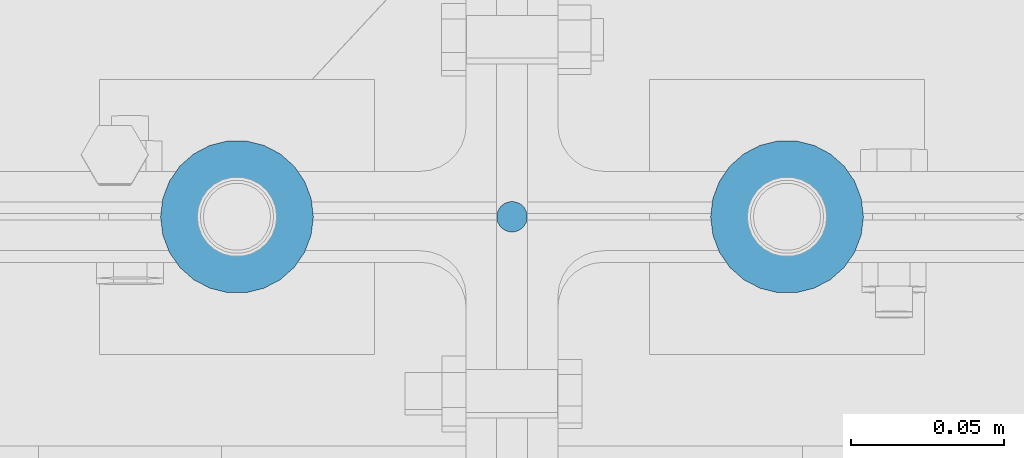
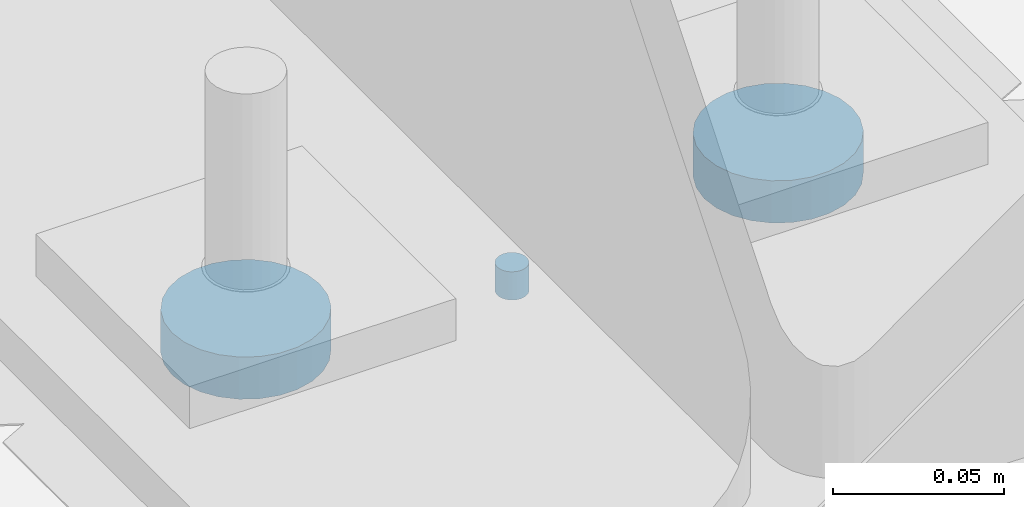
# One storey, part 208 of 362: 3 mechanical fasteners.
"""IFC2X3 building model written with IfcOpenShell, lengths in millimetres."""

from ifc_helpers import new_model, si_unit, frame, origin_with_axes, origin_2d_with_axis, place, context, subcontext, project, spatial, circle, extrude, source, transform, mapped, material, type_object, element, save


model = new_model("IFC2X3")

# Units and contexts
model_context = context("Model", 3, precision=1e-05, world=origin_with_axes())
body_context = subcontext(model_context, "Body", "Model", "MODEL_VIEW")
ifc_project = project(units=[si_unit("LENGTHUNIT", "METRE", prefix="MILLI"), si_unit("AREAUNIT", "SQUARE_METRE"), si_unit("VOLUMEUNIT", "CUBIC_METRE"), si_unit("MASSUNIT", "GRAM", prefix="KILO"), si_unit("TIMEUNIT", "SECOND"), si_unit("PLANEANGLEUNIT", "RADIAN"), si_unit("SOLIDANGLEUNIT", "STERADIAN"), si_unit("THERMODYNAMICTEMPERATUREUNIT", "DEGREE_CELSIUS"), si_unit("LUMINOUSINTENSITYUNIT", "LUMEN")], contexts=[model_context])

# Site, building, storey
site_placement = place(None, origin_with_axes())
site = spatial("IfcSite", under=ifc_project, at=site_placement, Name="Undefined", CompositionType="ELEMENT")
building_placement = place(site_placement, origin_with_axes())
building = spatial("IfcBuilding", under=site, at=building_placement, Name="Undefined", CompositionType="ELEMENT")
storey_placement = place(building_placement, origin_with_axes())
storey = spatial("IfcBuildingStorey", under=building, at=storey_placement, Name="Undefined", CompositionType="ELEMENT", Elevation=0.0)

# Mechanical fasteners
ifc_material = material(Name="6.8")
mechanical_fastener_type = type_object("IfcMechanicalFastenerType", Name="Bolt assembly")
shared_shape_1 = source(origin_with_axes(), body_context, "Body", "SweptSolid", [
    extrude(circle(Radius=25.0, at=origin_2d_with_axis()), frame((0.0, -14.999999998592, 0.0), z_axis=(0.0, 1.0, 0.0), x_axis=(1.0, 0.0, 0.0)), (0.0, 0.0, 1.0), 15.1),
])
for number, where, z_axis, x_axis, name in (
    (1, (4089.99715046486, -9.16043063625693e-09, -200.000000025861), (0.0, 1.0, 0.0), (1.0, 0.0, 0.0), "Bolt assembly"),
    (2, (4269.99715046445, -9.16406861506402e-09, -200.000000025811), (0.0, -1.0, 0.0), (-1.0, 0.0, 0.0), "Bolt assembly"),
):
    element("IfcMechanicalFastener", number, at=place(storey_placement, frame(where, z_axis=z_axis, x_axis=x_axis)), inside=storey, type_object=mechanical_fastener_type, material=ifc_material, Name=name, NominalDiameter=30.0, NominalLength=15.0, context=body_context, shape_type="MappedRepresentation", body=[
        mapped(shared_shape_1, transform((0.0, 0.0, 0.0))),
    ])
shared_shape_2 = source(origin_with_axes(), body_context, "Body", "SweptSolid", [
    extrude(circle(Radius=5.0, at=origin_2d_with_axis()), frame((0.0, 0.0, 0.0), z_axis=(0.0, 1.0, 0.0), x_axis=(1.0, 0.0, 0.0)), (0.0, 0.0, 1.0), 10.1),
])
mechanical_fastener_placement = place(storey_placement, frame((4180.00000007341, 0.0, -200.0), z_axis=(1.0, 0.0, 0.0), x_axis=(0.0, -1.0, 0.0)))
element("IfcMechanicalFastener", 3, at=mechanical_fastener_placement, inside=storey, type_object=mechanical_fastener_type, material=ifc_material, Name="Bolt assembly", NominalDiameter=8.0, NominalLength=10.0, context=body_context, shape_type="MappedRepresentation", body=[
    mapped(shared_shape_2, transform((0.0, 0.0, 0.0))),
])

save(model, "model.ifc")
